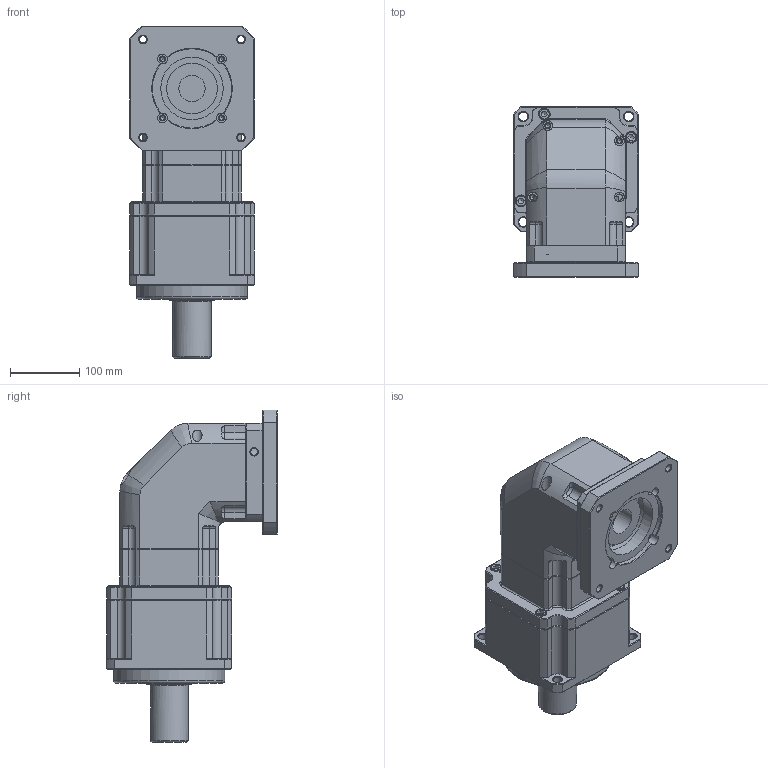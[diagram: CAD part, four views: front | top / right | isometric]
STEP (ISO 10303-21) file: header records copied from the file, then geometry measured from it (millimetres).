
FILE_DESCRIPTION((''),'2;1');
FILE_NAME('C:\Users\nagyu\Desktop\유성감속기-진행자료\도면\3D\2. 홈페이지용 3D 도면 (ipt)\외부도\SPL180\SPLH180D (2STAGE-KEY TYPE).stp','2012-07-23T11:31:55',('nagyu'),(''),'Autodesk Inventor 2012','Autodesk Inventor 2012','');
FILE_SCHEMA(('AUTOMOTIVE_DESIGN { 1 0 10303 214 1 1 1 1 }'));
Length unit declared in the file: millimetre
Products named in the file (2): SPLH180D 2단.iam (대체 세부 수준1); SPLH180D 2단_대체_1
Assembly tree (1 placements, depth 2):
  SPLH180D 2단.iam (대체 세부 수준1)
    SPLH180D 2단_대체_1
Bounding box: 180 x 246 x 478.4 mm (x, y, z)
Volume: 8381009.5 mm3; surface area: 622403 mm2
Topology: 9 solids, 9 shells, 617 faces, 1471 edges, 903 vertices
Faces by surface type: plane 253, cylinder 198, cone 130, torus 32, bspline 4
Full cylindrical faces by diameter (mm): 6.647 x12, 8.7 x8, 9 x4, 10 x4, 10.106 x5, 11 x4, 13 x4, 14 x12, 15 x1, 16 x4, 17 x4, 17.294 x1, 19 x1, 19.1 x1, 22 x1, 38 x1, 44.8 x1, 55 x1, 64.7 x1, 73 x1, 80 x1, 90 x3, 100 x3, 103 x1, 110 x1, 120 x2, 130 x2, 135 x1, 160 x1, 165 x1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
Entity records: 17774 total; most frequent: CARTESIAN_POINT 4213, DIRECTION 2776, ORIENTED_EDGE 2542, EDGE_CURVE 1271, AXIS2_PLACEMENT_3D 1129, VERTEX_POINT 854, EDGE_LOOP 853, FACE_OUTER_BOUND 617
